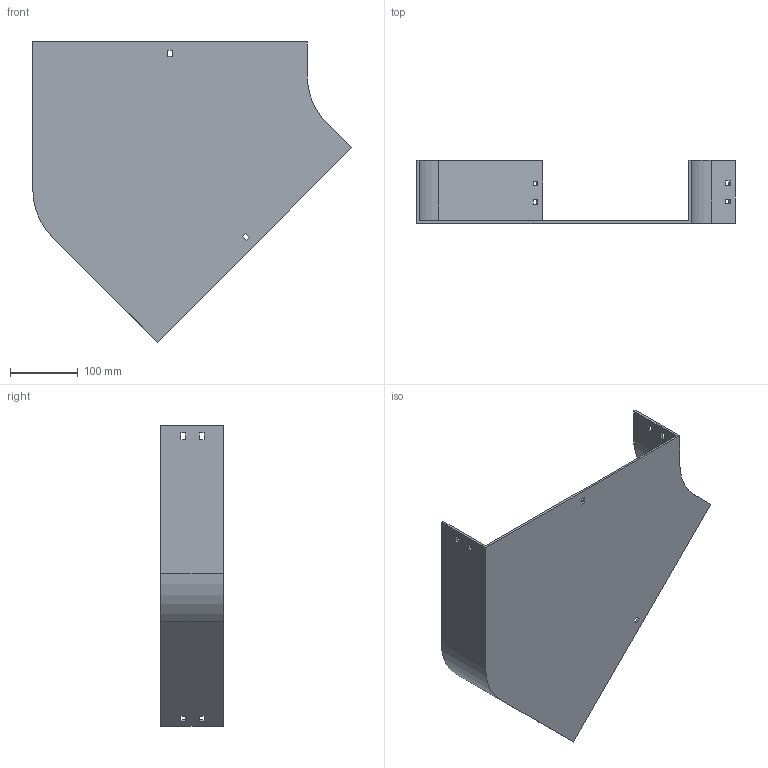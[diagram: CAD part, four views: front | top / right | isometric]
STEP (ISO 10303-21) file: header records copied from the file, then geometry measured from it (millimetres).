
FILE_DESCRIPTION (( 'STEP AP214' ), '1' );
FILE_NAME ('11B1I400.step', '2025-02-21T09:39:17', ( '' ), ( '' ), 'SwSTEP 2.0', 'SolidWorks 2023', '' );
FILE_SCHEMA (( 'AUTOMOTIVE_DESIGN' ));
Length unit declared in the file: millimetre
Products named in the file (1): 11B1I400
Bounding box: 468.64 x 92.5 x 441.74 mm (x, y, z)
Volume: 708276.6 mm3; surface area: 412393.7 mm2
Topology: 1 solids, 1 shells, 58 faces, 168 edges, 112 vertices
Faces by surface type: plane 54, cylinder 4
Entity records: 1943 total; most frequent: CARTESIAN_POINT 339, ORIENTED_EDGE 336, DIRECTION 294, EDGE_CURVE 168, LINE 160, VECTOR 160, VERTEX_POINT 112, EDGE_LOOP 78
